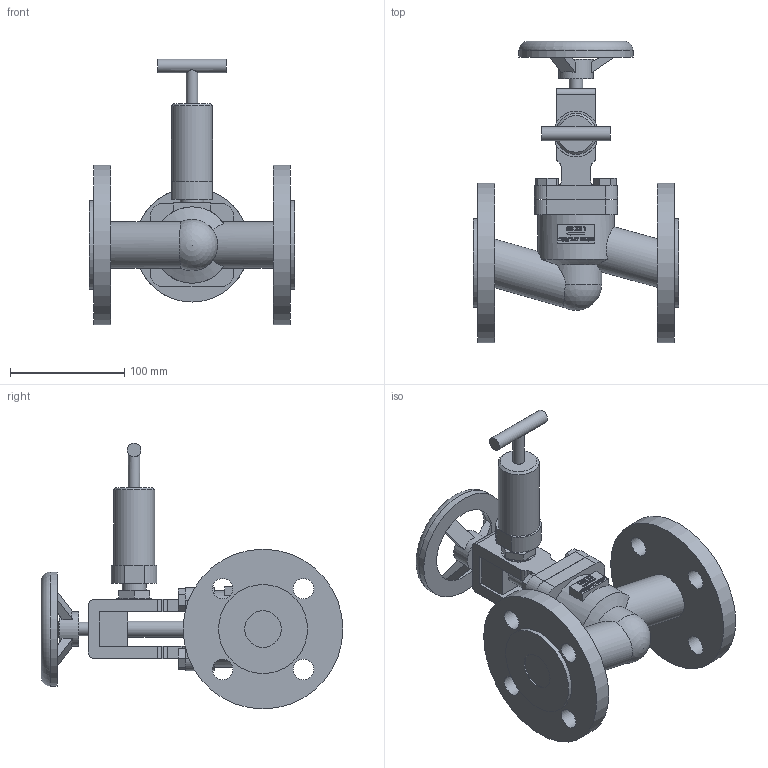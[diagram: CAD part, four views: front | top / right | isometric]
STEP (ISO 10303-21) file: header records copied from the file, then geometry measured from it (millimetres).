
FILE_DESCRIPTION(/* description */ (''),/* implementation_level */ '2;1');
FILE_NAME(/* name */ '100-247HP-DN32-PN16.stp',/* time_stamp */ '2024-07-08T21:59:05+02:00',/* author */ ('roger.thijssen'),/* organization */ (''),/* preprocessor_version */ 'ST-DEVELOPER v20',/* originating_system */ 'Autodesk Inventor 2024',/* authorisation */ '');
FILE_SCHEMA (('AUTOMOTIVE_DESIGN { 1 0 10303 214 3 1 1 }'));
Length unit declared in the file: millimetre
Products named in the file (1): 100-247HP-DN32-PN16
Bounding box: 180 x 264.5 x 233 mm (x, y, z)
Volume: 1212065.6 mm3; surface area: 177648.2 mm2
Topology: 1 solids, 1 shells, 399 faces, 1066 edges, 706 vertices
Faces by surface type: plane 251, bspline 72, cylinder 71, cone 3, torus 1, sphere 1
Full cylindrical faces by diameter (mm): 10 x1, 12 x2, 14 x1, 18 x8, 21 x1, 30 x2, 32 x2, 36 x1, 41 x2, 56 x1, 67 x1, 78 x2, 100 x1, 140 x2
Entity records: 13715 total; most frequent: CARTESIAN_POINT 3557, ORIENTED_EDGE 2130, DIRECTION 1738, EDGE_CURVE 1065, LINE 722, VECTOR 722, VERTEX_POINT 706, AXIS2_PLACEMENT_3D 508
